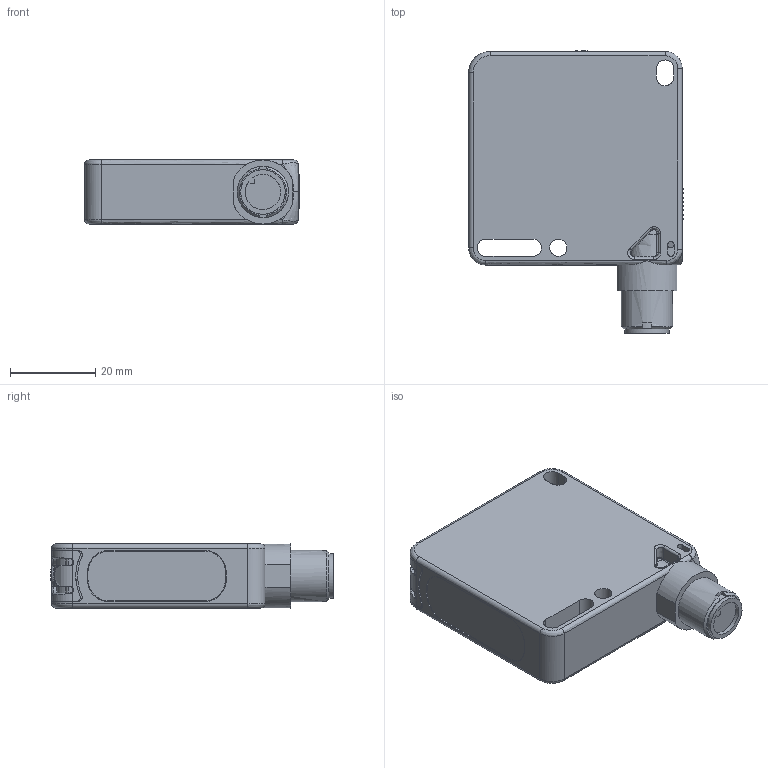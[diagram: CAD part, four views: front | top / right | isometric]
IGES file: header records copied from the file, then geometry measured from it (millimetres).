
Global section: file name: D:\Studi\DSD-0188.igs; preprocessor: I-DEAS 3D IGES Translator 11; date: 20080901.124140; units: millimetre
Bounding box: 50.25 x 66.2 x 15 mm (x, y, z)
Volume: 37279.2 mm3; surface area: 11012.6 mm2
Topology: 2 solids, 4 shells, 305 faces, 807 edges, 537 vertices
Faces by surface type: bspline 305
